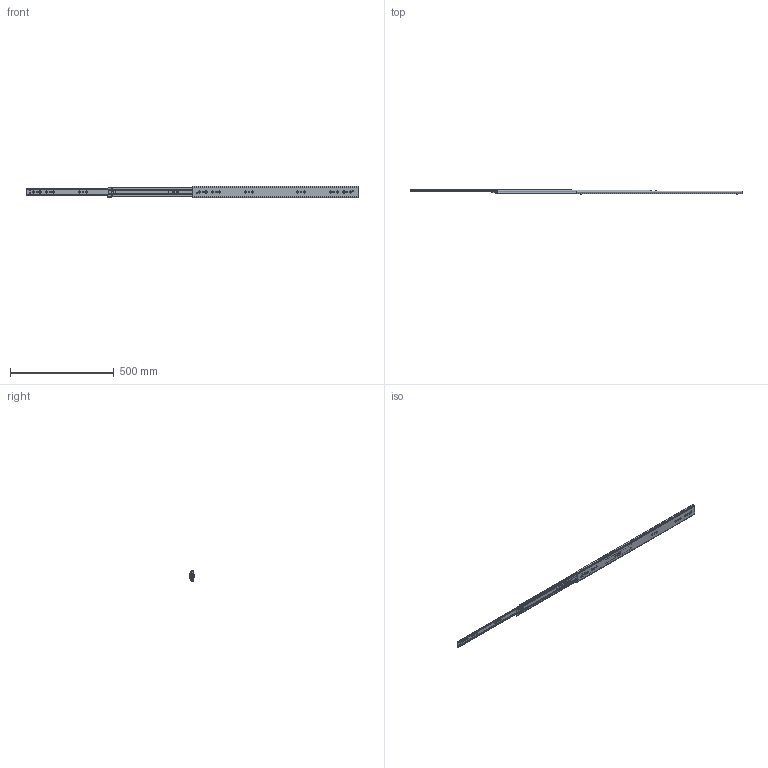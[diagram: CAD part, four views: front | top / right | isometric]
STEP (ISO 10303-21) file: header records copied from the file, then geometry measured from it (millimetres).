
FILE_DESCRIPTION((''),'2;1');
FILE_NAME('1057-C-32_ASM','2023-11-23T',('jishu015'),(''),'PRO/ENGINEER BY PARAMETRIC TECHNOLOGY CORPORATION, 2010280','PRO/ENGINEER BY PARAMETRIC TECHNOLOGY CORPORATION, 2010280','');
FILE_SCHEMA(('CONFIG_CONTROL_DESIGN'));
Products named in the file (19): KP-57-01WEIKE-31______; MAODING-WAI______; 1057DAZHUJIA-20GE1______; 1057ZHUJIADANWEIJIAO123__; 1057-5-6GANZHU1______; 1057DAZHUJIA-20GE_11__________ASM; 1057-C-20-KE_______ASM; KP-57-01ZHONGGUI-28___________; PEIJIAN-22______; ZHUANJIAO112______; LIUJIAO-DING11______; MAODING-P______; PEIJIAN-ZHONG_______ASM; 1057XIAOZHUJIA___20_______; 1057XIAOZHUJIA-20GE________ASM; KP-57-01ZHONGGUI-28____________ASM; KP-57-01NEIGUI-241______; KP-57-01NEIGUI-241_______ASM; 1057-C-32_ASM
Assembly tree (128 placements, depth 4):
  1057-C-32_ASM
    1057-C-20-KE_______ASM
      KP-57-01WEIKE-31______
      MAODING-WAI______  x2
      1057DAZHUJIA-20GE_11__________ASM
        1057DAZHUJIA-20GE1______
        1057ZHUJIADANWEIJIAO123__  x2
        1057-5-6GANZHU1______  x52
    KP-57-01ZHONGGUI-28____________ASM
      KP-57-01ZHONGGUI-28___________
      PEIJIAN-ZHONG_______ASM  x2
        PEIJIAN-22______
        ZHUANJIAO112______
        LIUJIAO-DING11______
        MAODING-P______
      MAODING-WAI______  x2
      1057XIAOZHUJIA-20GE________ASM
        1057XIAOZHUJIA___20_______
        1057-5-6GANZHU1______  x52
        1057ZHUJIADANWEIJIAO123__  x2
    KP-57-01NEIGUI-241_______ASM
      KP-57-01NEIGUI-241______
Bounding box: 1600 x 19.8 x 57.67 mm (x, y, z)
Volume: 343272.2 mm3; surface area: 399724.7 mm2
Topology: 125 solids, 125 shells, 3484 faces, 9676 edges, 6020 vertices
Faces by surface type: plane 1552, cylinder 1410, sphere 214, cone 114, bspline 106, torus 88
Entity records: 98570 total; most frequent: CARTESIAN_POINT 20933, DIRECTION 16474, ORIENTED_EDGE 16126, EDGE_CURVE 8063, AXIS2_PLACEMENT_3D 5710, VERTEX_POINT 5196, VECTOR 5054, LINE 5054
